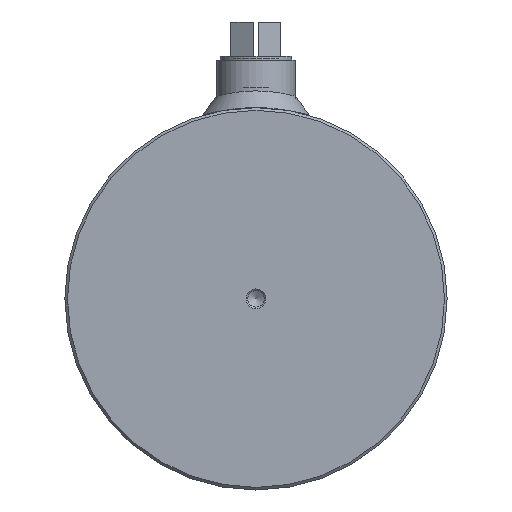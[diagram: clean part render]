
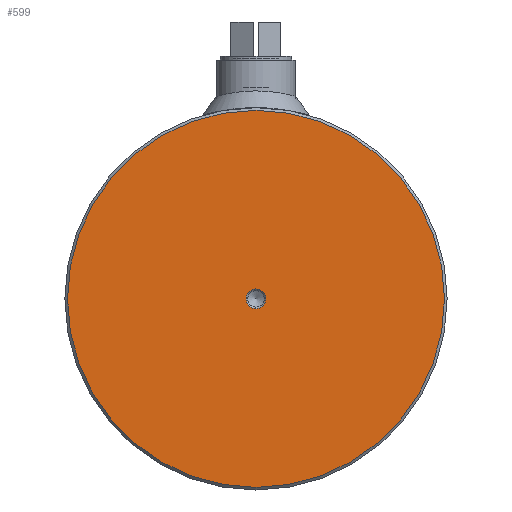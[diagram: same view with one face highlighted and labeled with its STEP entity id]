
A CAD part, left-side view. The second image highlights one B-rep face of the part: STEP entity #599.
In plain terms, the highlighted planar face has unit normal (-1, 0, 0).
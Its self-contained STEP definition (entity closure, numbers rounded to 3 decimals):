
#599 = ADVANCED_FACE( '', ( #1143, #1144 ), #1145, .F. );
#1143 = FACE_BOUND( '', #1927, .T. );
#1144 = FACE_OUTER_BOUND( '', #1928, .T. );
#1145 = PLANE( '', #1929 );
#1927 = EDGE_LOOP( '', ( #3844 ) );
#1928 = EDGE_LOOP( '', ( #3845 ) );
#1929 = AXIS2_PLACEMENT_3D( '', #3846, #3847, #3848 );
#3844 = ORIENTED_EDGE( '', *, *, #5059, .T. );
#3845 = ORIENTED_EDGE( '', *, *, #5060, .T. );
#3846 = CARTESIAN_POINT( '', ( -42., 0., 72.5 ) );
#3847 = DIRECTION( '', ( 1., 0., 0. ) );
#3848 = DIRECTION( '', ( 0., 0., -1. ) );
#5059 = EDGE_CURVE( '', #6109, #6109, #6110, .T. );
#5060 = EDGE_CURVE( '', #6111, #6111, #6112, .F. );
#6109 = VERTEX_POINT( '', #7333 );
#6110 = CIRCLE( '', #7334, 3.75 );
#6111 = VERTEX_POINT( '', #7335 );
#6112 = CIRCLE( '', #7336, 71.5 );
#7333 = CARTESIAN_POINT( '', ( -42., 0., -3.75 ) );
#7334 = AXIS2_PLACEMENT_3D( '', #9450, #9451, #9452 );
#7335 = CARTESIAN_POINT( '', ( -42., 0., -71.5 ) );
#7336 = AXIS2_PLACEMENT_3D( '', #9453, #9454, #9455 );
#9450 = CARTESIAN_POINT( '', ( -42., 0., 0. ) );
#9451 = DIRECTION( '', ( 1., 0., 0. ) );
#9452 = DIRECTION( '', ( 0., 0., -1. ) );
#9453 = CARTESIAN_POINT( '', ( -42., 0., 0. ) );
#9454 = DIRECTION( '', ( 1., 0., 0. ) );
#9455 = DIRECTION( '', ( 0., 0., -1. ) );
